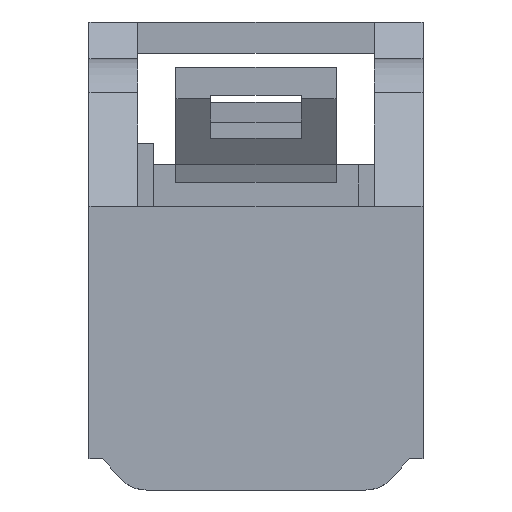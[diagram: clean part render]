
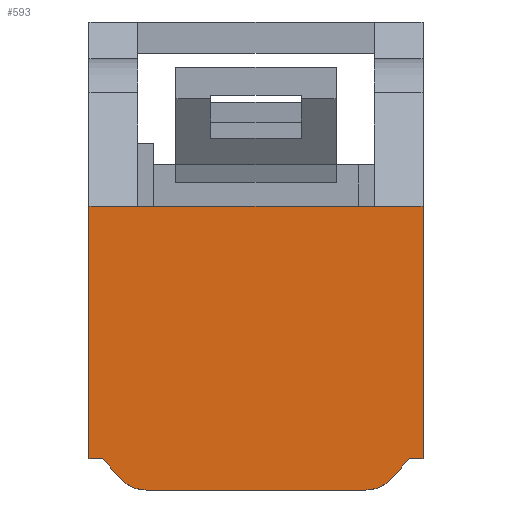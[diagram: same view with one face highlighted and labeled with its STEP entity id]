
A CAD part, left-side view. The second image highlights one B-rep face of the part: STEP entity #593.
In plain terms, the highlighted planar face has unit normal (-1, 0, 0).
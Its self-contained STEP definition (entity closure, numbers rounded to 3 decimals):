
#511=AXIS2_PLACEMENT_3D('Plane Axis2P3D',#508,#509,#510) ;
#515=AXIS2_PLACEMENT_3D('Circle Axis2P3D',#513,#514,$) ;
#569=AXIS2_PLACEMENT_3D('Circle Axis2P3D',#567,#568,$) ;
#383=CARTESIAN_POINT('Vertex',(-23.4,-3.8,-3.275)) ;
#386=CARTESIAN_POINT('Line Origine',(-23.4,-3.606,-3.275)) ;
#390=CARTESIAN_POINT('Vertex',(-23.4,-3.411,-3.275)) ;
#411=CARTESIAN_POINT('Vertex',(-23.4,5.411,-3.275)) ;
#414=CARTESIAN_POINT('Line Origine',(-23.4,5.606,-3.275)) ;
#418=CARTESIAN_POINT('Vertex',(-23.4,5.8,-3.275)) ;
#508=CARTESIAN_POINT('Axis2P3D Location',(-23.4,0.,3.975)) ;
#513=CARTESIAN_POINT('Axis2P3D Location',(-23.4,-2.155,-3.175)) ;
#517=CARTESIAN_POINT('Vertex',(-23.4,-2.898,-3.845)) ;
#519=CARTESIAN_POINT('Vertex',(-23.4,-2.155,-4.175)) ;
#522=CARTESIAN_POINT('Line Origine',(-23.4,-3.155,-3.56)) ;
#527=CARTESIAN_POINT('Line Origine',(-23.4,-3.8,0.35)) ;
#531=CARTESIAN_POINT('Vertex',(-23.4,-3.8,3.975)) ;
#534=CARTESIAN_POINT('Line Origine',(-23.4,-3.1,3.975)) ;
#538=CARTESIAN_POINT('Vertex',(-23.4,-2.4,3.975)) ;
#541=CARTESIAN_POINT('Line Origine',(-23.4,1.,3.975)) ;
#545=CARTESIAN_POINT('Vertex',(-23.4,4.4,3.975)) ;
#548=CARTESIAN_POINT('Line Origine',(-23.4,5.1,3.975)) ;
#552=CARTESIAN_POINT('Vertex',(-23.4,5.8,3.975)) ;
#555=CARTESIAN_POINT('Line Origine',(-23.4,5.8,0.35)) ;
#560=CARTESIAN_POINT('Line Origine',(-23.4,5.155,-3.56)) ;
#564=CARTESIAN_POINT('Vertex',(-23.4,4.898,-3.845)) ;
#567=CARTESIAN_POINT('Axis2P3D Location',(-23.4,4.155,-3.175)) ;
#571=CARTESIAN_POINT('Vertex',(-23.4,4.155,-4.175)) ;
#574=CARTESIAN_POINT('Line Origine',(-23.4,1.,-4.175)) ;
#387=DIRECTION('Vector Direction',(0.,1.,0.)) ;
#415=DIRECTION('Vector Direction',(0.,1.,0.)) ;
#509=DIRECTION('Axis2P3D Direction',(1.,-0.,0.)) ;
#510=DIRECTION('Axis2P3D XDirection',(0.,0.,-1.)) ;
#514=DIRECTION('Axis2P3D Direction',(1.,-0.,0.)) ;
#523=DIRECTION('Vector Direction',(0.,-0.67,0.743)) ;
#528=DIRECTION('Vector Direction',(0.,0.,1.)) ;
#535=DIRECTION('Vector Direction',(0.,1.,0.)) ;
#542=DIRECTION('Vector Direction',(0.,1.,0.)) ;
#549=DIRECTION('Vector Direction',(0.,1.,0.)) ;
#556=DIRECTION('Vector Direction',(0.,0.,1.)) ;
#561=DIRECTION('Vector Direction',(0.,0.67,0.743)) ;
#568=DIRECTION('Axis2P3D Direction',(1.,-0.,0.)) ;
#575=DIRECTION('Vector Direction',(0.,1.,0.)) ;
#388=VECTOR('Line Direction',#387,1.) ;
#416=VECTOR('Line Direction',#415,1.) ;
#524=VECTOR('Line Direction',#523,1.) ;
#529=VECTOR('Line Direction',#528,1.) ;
#536=VECTOR('Line Direction',#535,1.) ;
#543=VECTOR('Line Direction',#542,1.) ;
#550=VECTOR('Line Direction',#549,1.) ;
#557=VECTOR('Line Direction',#556,1.) ;
#562=VECTOR('Line Direction',#561,1.) ;
#576=VECTOR('Line Direction',#575,1.) ;
#580=ORIENTED_EDGE('',*,*,#521,.F.) ;
#581=ORIENTED_EDGE('',*,*,#526,.T.) ;
#582=ORIENTED_EDGE('',*,*,#392,.F.) ;
#583=ORIENTED_EDGE('',*,*,#533,.T.) ;
#584=ORIENTED_EDGE('',*,*,#540,.T.) ;
#585=ORIENTED_EDGE('',*,*,#547,.T.) ;
#586=ORIENTED_EDGE('',*,*,#554,.T.) ;
#587=ORIENTED_EDGE('',*,*,#559,.F.) ;
#588=ORIENTED_EDGE('',*,*,#420,.F.) ;
#589=ORIENTED_EDGE('',*,*,#566,.F.) ;
#590=ORIENTED_EDGE('',*,*,#573,.F.) ;
#591=ORIENTED_EDGE('',*,*,#578,.F.) ;
#593=ADVANCED_FACE('\X2\FF8AFF9FFF70FF82\X0\ \X2\FF8EFF9EFF83FF9EFF68FF70\X0\',(#592),#512,.F.) ;
#516=CIRCLE('generated circle',#515,1.) ;
#570=CIRCLE('generated circle',#569,1.) ;
#392=EDGE_CURVE('',#384,#391,#389,.T.) ;
#420=EDGE_CURVE('',#412,#419,#417,.T.) ;
#521=EDGE_CURVE('',#518,#520,#516,.T.) ;
#526=EDGE_CURVE('',#518,#391,#525,.T.) ;
#533=EDGE_CURVE('',#384,#532,#530,.T.) ;
#540=EDGE_CURVE('',#532,#539,#537,.T.) ;
#547=EDGE_CURVE('',#539,#546,#544,.T.) ;
#554=EDGE_CURVE('',#546,#553,#551,.T.) ;
#559=EDGE_CURVE('',#419,#553,#558,.T.) ;
#566=EDGE_CURVE('',#565,#412,#563,.T.) ;
#573=EDGE_CURVE('',#572,#565,#570,.T.) ;
#578=EDGE_CURVE('',#520,#572,#577,.T.) ;
#579=EDGE_LOOP('',(#580,#581,#582,#583,#584,#585,#586,#587,#588,#589,#590,#591)) ;
#592=FACE_OUTER_BOUND('',#579,.T.) ;
#389=LINE('Line',#386,#388) ;
#417=LINE('Line',#414,#416) ;
#525=LINE('Line',#522,#524) ;
#530=LINE('Line',#527,#529) ;
#537=LINE('Line',#534,#536) ;
#544=LINE('Line',#541,#543) ;
#551=LINE('Line',#548,#550) ;
#558=LINE('Line',#555,#557) ;
#563=LINE('Line',#560,#562) ;
#577=LINE('Line',#574,#576) ;
#512=PLANE('',#511) ;
#384=VERTEX_POINT('',#383) ;
#391=VERTEX_POINT('',#390) ;
#412=VERTEX_POINT('',#411) ;
#419=VERTEX_POINT('',#418) ;
#518=VERTEX_POINT('',#517) ;
#520=VERTEX_POINT('',#519) ;
#532=VERTEX_POINT('',#531) ;
#539=VERTEX_POINT('',#538) ;
#546=VERTEX_POINT('',#545) ;
#553=VERTEX_POINT('',#552) ;
#565=VERTEX_POINT('',#564) ;
#572=VERTEX_POINT('',#571) ;
